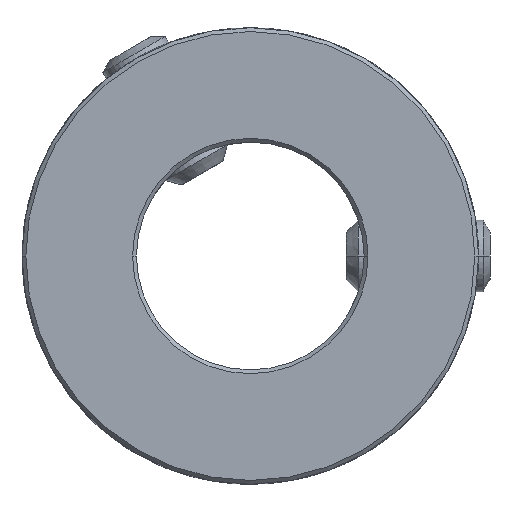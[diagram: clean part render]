
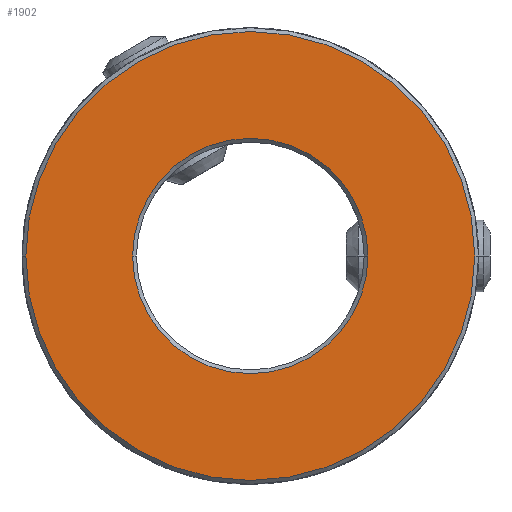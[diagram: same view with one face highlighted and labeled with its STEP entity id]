
A CAD part, front view. The second image highlights one B-rep face of the part: STEP entity #1902.
In plain terms, the highlighted planar face has unit normal (0, -1, 0).
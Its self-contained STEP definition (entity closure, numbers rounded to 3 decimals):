
#2=CARTESIAN_POINT('',(0.,-25.,
0.));
#3=DIRECTION('',(0.,-1.,0.));
#4=DIRECTION('',(1.,0.,0.));
#5=AXIS2_PLACEMENT_3D('',#2,#3,#4);
#7=CARTESIAN_POINT('',(0.,-25.,
0.));
#8=DIRECTION('',(0.,-1.,0.));
#9=DIRECTION('',(-1.,0.,0.));
#10=AXIS2_PLACEMENT_3D('',#7,#8,#9);
#12=CARTESIAN_POINT('',(0.,-25.,
0.));
#13=DIRECTION('',(0.,1.,0.));
#14=DIRECTION('',(1.,0.,0.));
#15=AXIS2_PLACEMENT_3D('',#12,#13,#14);
#17=CARTESIAN_POINT('',(0.,-25.,
0.));
#18=DIRECTION('',(0.,1.,0.));
#19=DIRECTION('',(-1.,0.,0.));
#20=AXIS2_PLACEMENT_3D('',#17,#18,#19);
#1741=CARTESIAN_POINT('',(9.82,-25.,0.));
#1742=CARTESIAN_POINT('',(-9.82,-25.,0.));
#1743=VERTEX_POINT('',#1741);
#1744=VERTEX_POINT('',#1742);
#1757=CARTESIAN_POINT('',(18.73,-25.,0.));
#1758=CARTESIAN_POINT('',(-18.73,-25.,0.));
#1759=VERTEX_POINT('',#1757);
#1760=VERTEX_POINT('',#1758);
#1885=CARTESIAN_POINT('',(0.,-25.,0.));
#1886=DIRECTION('',(0.,1.,0.));
#1887=DIRECTION('',(1.,0.,0.));
#1888=AXIS2_PLACEMENT_3D('',#1885,#1886,#1887);
#1889=PLANE('',#1888);
#1891=ORIENTED_EDGE('',*,*,#1890,.F.);
#1893=ORIENTED_EDGE('',*,*,#1892,.F.);
#1894=EDGE_LOOP('',(#1891,#1893));
#1895=FACE_OUTER_BOUND('',#1894,.F.);
#1897=ORIENTED_EDGE('',*,*,#1896,.F.);
#1899=ORIENTED_EDGE('',*,*,#1898,.F.);
#1900=EDGE_LOOP('',(#1897,#1899));
#1901=FACE_BOUND('',#1900,.F.);
#1902=ADVANCED_FACE('',(#1895,#1901),#1889,.F.);
#6=CIRCLE('',#5,18.73);
#11=CIRCLE('',#10,18.73);
#16=CIRCLE('',#15,9.82);
#21=CIRCLE('',#20,9.82);
#1890=EDGE_CURVE('',#1759,#1760,#6,.T.);
#1892=EDGE_CURVE('',#1760,#1759,#11,.T.);
#1896=EDGE_CURVE('',#1743,#1744,#16,.T.);
#1898=EDGE_CURVE('',#1744,#1743,#21,.T.);
